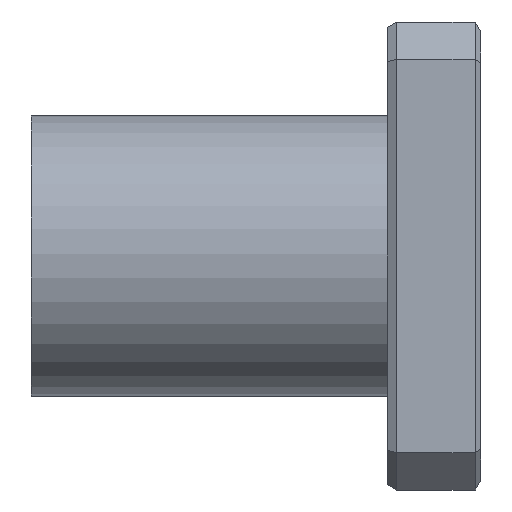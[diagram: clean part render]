
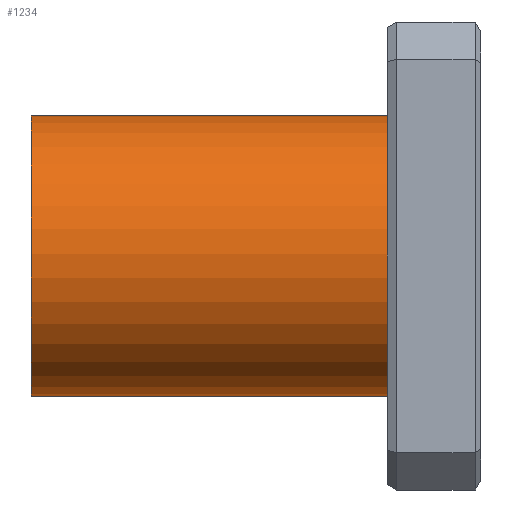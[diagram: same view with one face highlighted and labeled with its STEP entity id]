
A CAD part, left-side view. The second image highlights one B-rep face of the part: STEP entity #1234.
In plain terms, the highlighted cylindrical face has radius 7.5 mm (diameter 15 mm), a partial arc.
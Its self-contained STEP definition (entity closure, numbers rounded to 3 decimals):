
#145 = ORIENTED_EDGE ( 'NONE', *, *, #2488, .T. ) ;
#153 = CARTESIAN_POINT ( 'NONE',  ( 0., 0., 7.5 ) ) ;
#176 = CARTESIAN_POINT ( 'NONE',  ( 0., 24., -7.5 ) ) ;
#294 = VERTEX_POINT ( 'NONE', #2259 ) ;
#363 = CARTESIAN_POINT ( 'NONE',  ( 0., 24., 0. ) ) ;
#414 = CIRCLE ( 'NONE', #630, 7.5 ) ;
#446 = VERTEX_POINT ( 'NONE', #2306 ) ;
#630 = AXIS2_PLACEMENT_3D ( 'NONE', #844, #2216, #1205 ) ;
#640 = AXIS2_PLACEMENT_3D ( 'NONE', #363, #1476, #2161 ) ;
#680 = ORIENTED_EDGE ( 'NONE', *, *, #703, .T. ) ;
#703 = EDGE_CURVE ( 'NONE', #294, #812, #414, .T. ) ;
#734 = AXIS2_PLACEMENT_3D ( 'NONE', #1033, #1766, #2484 ) ;
#812 = VERTEX_POINT ( 'NONE', #153 ) ;
#844 = CARTESIAN_POINT ( 'NONE',  ( 0., 0., 0. ) ) ;
#891 = DIRECTION ( 'NONE',  ( 0., -1., 0. ) ) ;
#903 = FACE_OUTER_BOUND ( 'NONE', #2369, .T. ) ;
#1033 = CARTESIAN_POINT ( 'NONE',  ( 0., 24., 0. ) ) ;
#1205 = DIRECTION ( 'NONE',  ( 0., 0., 1. ) ) ;
#1234 = ADVANCED_FACE ( 'NONE', ( #903 ), #2683, .T. ) ;
#1313 = LINE ( 'NONE', #2253, #2215 ) ;
#1348 = CIRCLE ( 'NONE', #640, 7.5 ) ;
#1388 = EDGE_CURVE ( 'NONE', #446, #1853, #1348, .T. ) ;
#1400 = VECTOR ( 'NONE', #891, 1000. ) ;
#1461 = LINE ( 'NONE', #176, #1400 ) ;
#1476 = DIRECTION ( 'NONE',  ( 0., 1., 0. ) ) ;
#1498 = ORIENTED_EDGE ( 'NONE', *, *, #1517, .F. ) ;
#1517 = EDGE_CURVE ( 'NONE', #1853, #812, #1313, .T. ) ;
#1766 = DIRECTION ( 'NONE',  ( 0., -1., 0. ) ) ;
#1837 = CARTESIAN_POINT ( 'NONE',  ( 0., 24., 7.5 ) ) ;
#1853 = VERTEX_POINT ( 'NONE', #1837 ) ;
#2161 = DIRECTION ( 'NONE',  ( 0., 0., 1. ) ) ;
#2215 = VECTOR ( 'NONE', #2294, 1000. ) ;
#2216 = DIRECTION ( 'NONE',  ( 0., 1., 0. ) ) ;
#2253 = CARTESIAN_POINT ( 'NONE',  ( 0., 24., 7.5 ) ) ;
#2259 = CARTESIAN_POINT ( 'NONE',  ( 0., 0., -7.5 ) ) ;
#2281 = ORIENTED_EDGE ( 'NONE', *, *, #1388, .F. ) ;
#2294 = DIRECTION ( 'NONE',  ( 0., -1., 0. ) ) ;
#2306 = CARTESIAN_POINT ( 'NONE',  ( 0., 24., -7.5 ) ) ;
#2369 = EDGE_LOOP ( 'NONE', ( #1498, #2281, #145, #680 ) ) ;
#2484 = DIRECTION ( 'NONE',  ( 0., 0., -1. ) ) ;
#2488 = EDGE_CURVE ( 'NONE', #446, #294, #1461, .T. ) ;
#2683 = CYLINDRICAL_SURFACE ( 'NONE', #734, 7.5 ) ;
